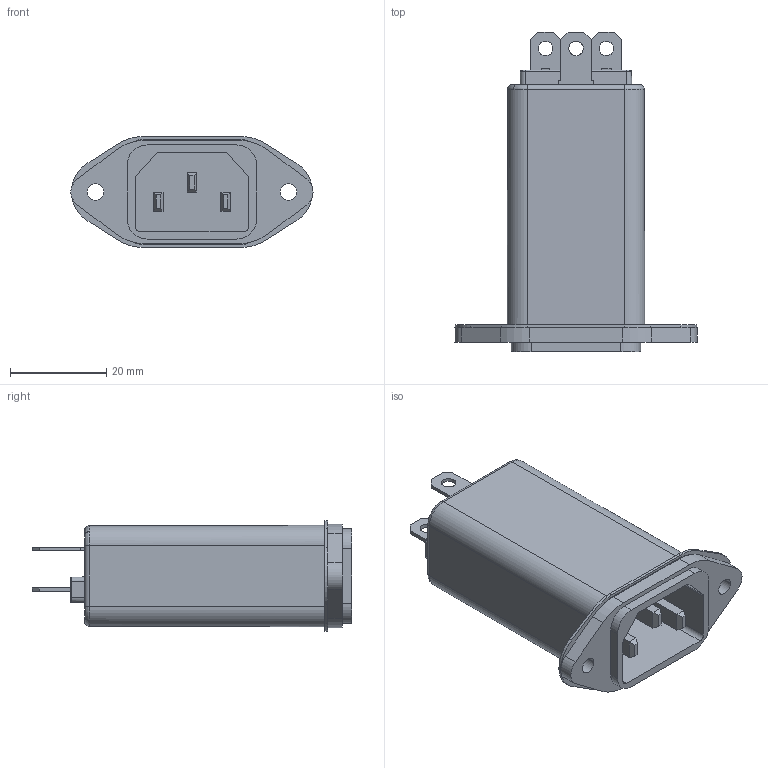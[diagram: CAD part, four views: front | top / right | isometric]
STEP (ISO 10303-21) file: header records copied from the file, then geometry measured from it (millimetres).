
FILE_DESCRIPTION(('FreeCAD Model'),'2;1');
FILE_NAME('X:/Application Engineering/4 Documentation/3 Users/1 MaS/3D Projekt/RAC05-K_C14_3D_20190723.step','2019-07-23T13:24:22',('Author'),( ''),'Open CASCADE STEP processor 7.3','FreeCAD','Unknown');
FILE_SCHEMA(('AUTOMOTIVE_DESIGN { 1 0 10303 214 1 1 1 1 }'));
Length unit declared in the file: millimetre
Products named in the file (9): RAC05-K_C14_Pin4_+Vout; RAC05-K_C14_??2; RAC05-K_C14_PCB; RAC05-K_C14_PCB_fixing_land; RAC05-K_C14_Input_Connector_+_case; RAC05-K_C14_Pin6_-Vout; RAC05-K_C14_Pin5_GND; RAC05-K_C14_Output_Pin_case; RAC05-K_C14_alu_case
Bounding box: 50.19 x 66.3 x 23 mm (x, y, z)
Volume: 14170.9 mm3; surface area: 27054.4 mm2
Topology: 9 solids, 9 shells, 583 faces, 1567 edges, 1014 vertices
Faces by surface type: plane 366, cylinder 165, bspline 44, torus 4, cone 2, sphere 2
Entity records: 18893 total; most frequent: CARTESIAN_POINT 4631, ORIENTED_EDGE 3130, DIRECTION 2675, EDGE_CURVE 1565, LINE 1139, VECTOR 1139, VERTEX_POINT 1014, AXIS2_PLACEMENT_3D 768
